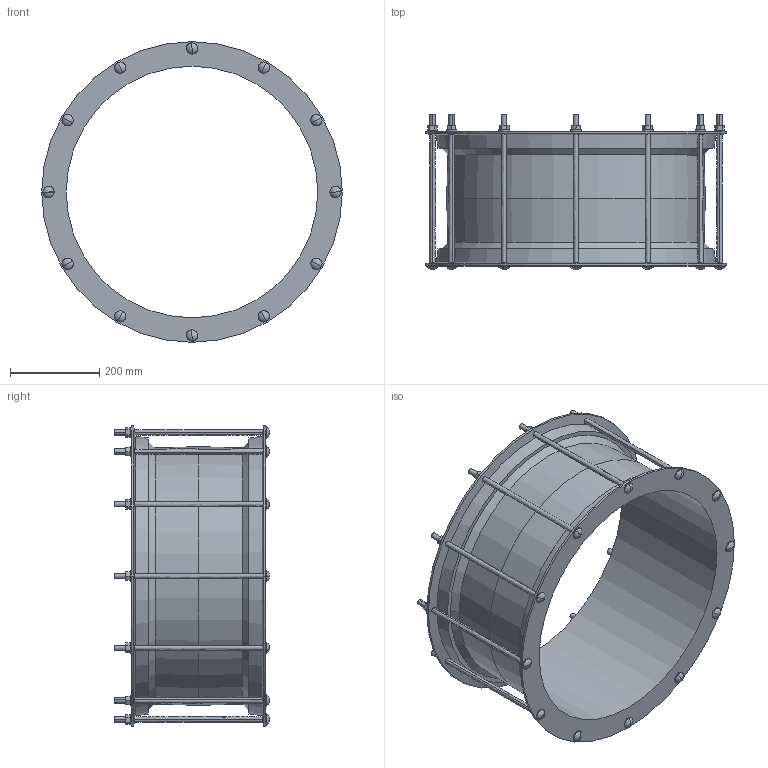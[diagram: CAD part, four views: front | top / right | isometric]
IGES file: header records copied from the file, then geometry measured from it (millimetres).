
Start section:  PTC IGES file: 546_563.igs
Global section: file name: 546_563.igs; native system: Creo Parametric by PTC Inc.; preprocessor: 2016130; author: mfairey; organization: Unknown; date: 20181218.142602; units: millimetre
Bounding box: 675 x 348 x 675 mm (x, y, z)
Surface area: 1606933.7 mm2 (no closed solid volume)
Topology: 0 solids, 0 shells, 254 faces, 1208 edges, 1184 vertices
Faces by surface type: revolution 142, bspline 112
